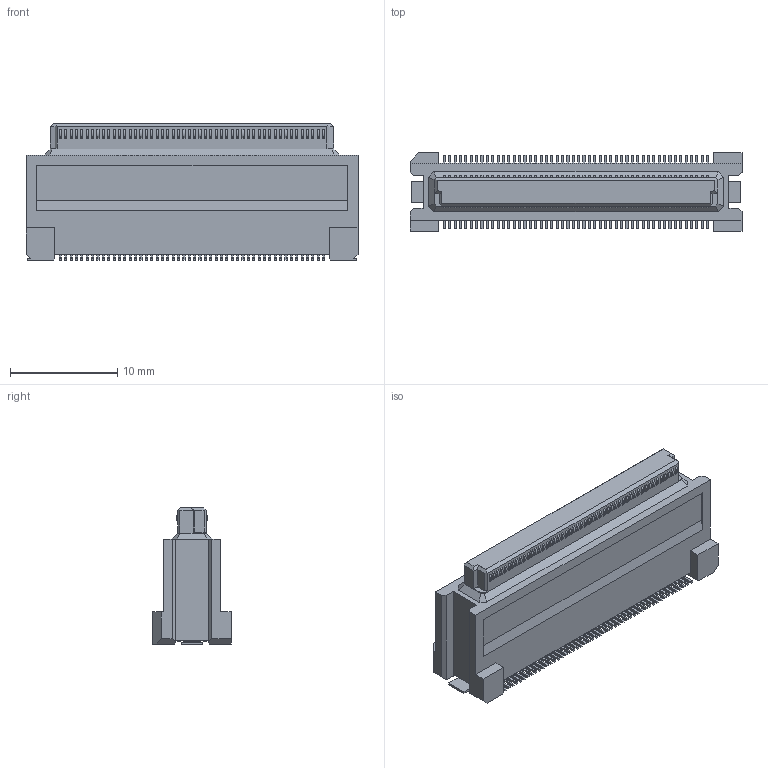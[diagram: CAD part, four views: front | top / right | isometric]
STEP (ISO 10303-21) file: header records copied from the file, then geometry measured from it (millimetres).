
FILE_DESCRIPTION(('Creo Elements/Direct Modeling STEP Export'),'2;1');
FILE_NAME('P39934_DY10-100FS-4.stp','2017-11-27T16:51:20',(''),(''),'Creo Elements/Direct Modeling STEP processor for AP214 (Solid Model)','Creo Elements/Direct Modeling 19.0F 14-Feb-2017 (C) Parametric Technology GmbH','');
FILE_SCHEMA(('AUTOMOTIVE_DESIGN { 1 0 10303 214 1 1 1 1 }'));
Length unit declared in the file: millimetre
Products named in the file (2): DY10-100FS-4
Assembly tree (1 placements, depth 2):
  DY10-100FS-4
    DY10-100FS-4
Bounding box: 30.9 x 7.3 x 12.73 mm (x, y, z)
Volume: 1576.8 mm3; surface area: 1433.5 mm2
Topology: 1 solids, 1 shells, 1450 faces, 3993 edges, 2650 vertices
Faces by surface type: plane 1036, cylinder 406, bspline 8
Entity records: 46173 total; most frequent: CARTESIAN_POINT 9204, ORIENTED_EDGE 7986, DIRECTION 7271, EDGE_CURVE 3993, VECTOR 3157, LINE 3157, VERTEX_POINT 2650, AXIS2_PLACEMENT_3D 2057
